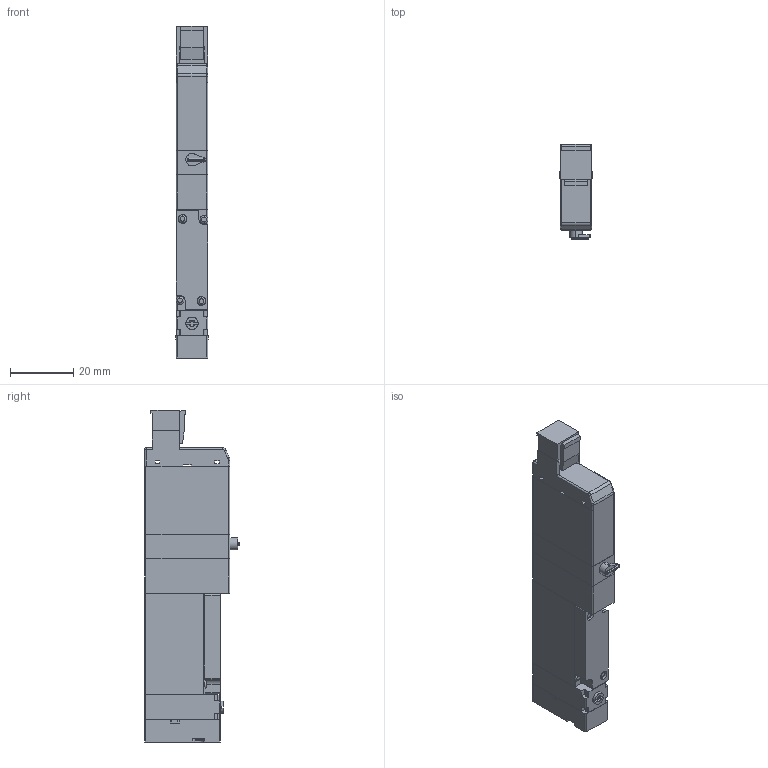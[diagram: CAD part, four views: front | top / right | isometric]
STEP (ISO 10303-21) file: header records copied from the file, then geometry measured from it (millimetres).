
FILE_DESCRIPTION( (''), '2;1');
FILE_NAME ('CVICAD02.13484.F10T2-R-A1-PS_6022.stp','2020-09-01T14:11:26',(''),(''),'spGate 12.6.6','','');
FILE_SCHEMA (('AUTOMOTIVE_DESIGN'));
Length unit declared in the file: millimetre
Products named in the file (8): Assembly; F10_Adptor; F10_Cap; F10T_Body; F_3PortBody-R; F_Connector-PS; F10_SwitchBlock; F10_A1
Assembly tree (7 placements, depth 2):
  Assembly
    F10_Adptor
    F10_Cap
    F10T_Body
    F_3PortBody-R
    F_Connector-PS
    F10_SwitchBlock
    F10_A1
Bounding box: 10.2 x 30 x 105 mm (x, y, z)
Volume: 24297.9 mm3; surface area: 11452.5 mm2
Topology: 7 solids, 7 shells, 288 faces, 740 edges, 476 vertices
Faces by surface type: plane 164, cylinder 96, bspline 22, sphere 6
Entity records: 15142 total; most frequent: CARTESIAN_POINT 1979, DIRECTION 1489, ORIENTED_EDGE 1468, COLOUR_RGB 1029, PRESENTATION_STYLE_ASSIGNMENT 1029, STYLED_ITEM 1029, EDGE_CURVE 734, DRAUGHTING_PRE_DEFINED_CURVE_FONT 734
